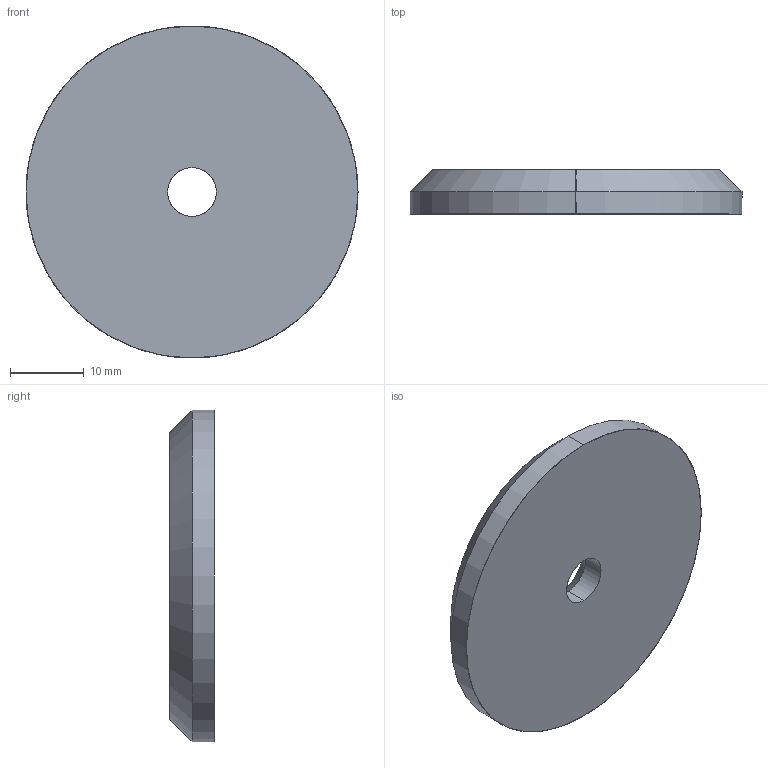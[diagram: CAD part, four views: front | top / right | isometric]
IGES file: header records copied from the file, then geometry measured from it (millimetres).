
Start section: SolidWorks IGES file using analytic representation for surfaces
Global section: file name: C:\Documents and Settings\IANO\Desktop\Temp File\Process pending\EXISTING\36720_v2\36720_v2_20170629_IGES\36720.W0045.igs; native system: SolidWorks 2009; preprocessor: SolidWorks 2009; author: IANO; date: 170627.110902; units: millimetre
Bounding box: 45 x 6 x 45 mm (x, y, z)
Surface area: 3800.2 mm2 (no closed solid volume)
Topology: 0 solids, 0 shells, 10 faces, 224 edges, 224 vertices
Faces by surface type: revolution 8, bspline 2
